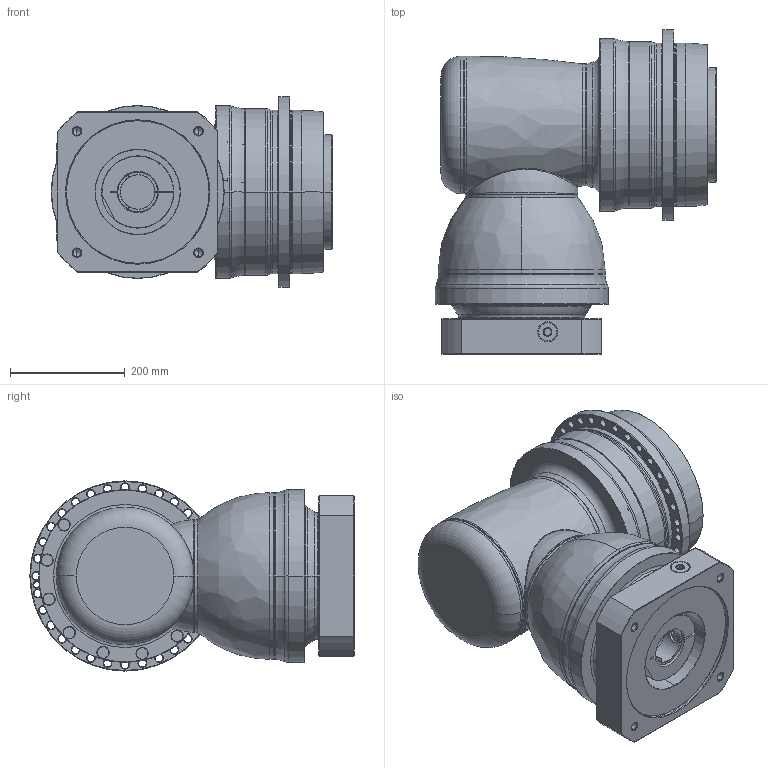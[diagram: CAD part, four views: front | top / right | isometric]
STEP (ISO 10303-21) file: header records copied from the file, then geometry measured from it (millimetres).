
FILE_DESCRIPTION((''),'2;1');
FILE_NAME('APK285_2ST_SBG_60-P0409D00201_ASM','2018-10-30T',('d01226'),(''),'PRO/ENGINEER BY PARAMETRIC TECHNOLOGY CORPORATION, 2015240','PRO/ENGINEER BY PARAMETRIC TECHNOLOGY CORPORATION, 2015240','');
FILE_SCHEMA(('CONFIG_CONTROL_DESIGN'));
Length unit declared in the file: millimetre
Products named in the file (13): P0278801003; P0359801103; P1211800001; P1802810001; P1018800002; P1365800001; P1007801001; P1318810501; P0503D00016; P0912805001; P0409D00201; 21711426021; APK285_2ST_SBG_60-P0409D00201_ASM
Assembly tree (12 placements, depth 2):
  APK285_2ST_SBG_60-P0409D00201_ASM
    P0278801003
    P0359801103
    P1211800001
    P1802810001
    P1018800002
    P1365800001
    P1007801001
    P1318810501
    P0503D00016
    P0912805001
    P0409D00201
    21711426021
Bounding box: 491.5 x 566 x 332 mm (x, y, z)
Volume: 41314527.4 mm3; surface area: 2183121.1 mm2
Topology: 13 solids, 36 shells, 913 faces, 2063 edges, 1248 vertices
Faces by surface type: cylinder 368, cone 272, plane 152, torus 90, bspline 30, sphere 1
Entity records: 32057 total; most frequent: CARTESIAN_POINT 10724, DIRECTION 4933, ORIENTED_EDGE 3960, AXIS2_PLACEMENT_3D 2113, EDGE_CURVE 2027, VERTEX_POINT 1248, CIRCLE 1193, EDGE_LOOP 1105
